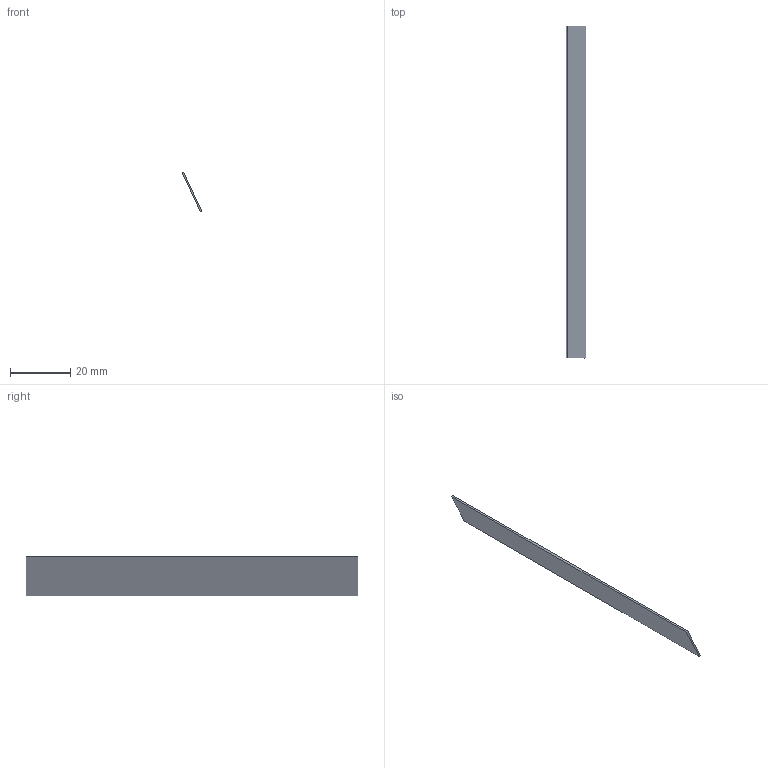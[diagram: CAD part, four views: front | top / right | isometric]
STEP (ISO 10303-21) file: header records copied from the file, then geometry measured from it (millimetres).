
FILE_DESCRIPTION(('Open CASCADE Model'),'2;1');
FILE_NAME('SOLID','2026-10-21T18:57:47',('Author'),('Open CASCADE'), 'Open CASCADE STEP processor 8.0','build123d','Unknown');
FILE_SCHEMA(('AUTOMOTIVE_DESIGN { 1 0 10303 214 1 1 1 1 }'));
Length unit declared in the file: millimetre
Products named in the file (2): SOLID
Assembly tree (1 placements, depth 2):
  SOLID
    SOLID
Bounding box: 6.59 x 109.85 x 13.21 mm (x, y, z)
Volume: 942.5 mm3; surface area: 3290.7 mm2
Topology: 1 solids, 1 shells, 6 faces, 12 edges, 8 vertices
Faces by surface type: plane 6
Entity records: 328 total; most frequent: CARTESIAN_POINT 64, DIRECTION 40, ORIENTED_EDGE 24, LINE 24, VECTOR 24, PCURVE 24, DEFINITIONAL_REPRESENTATION 24, EDGE_CURVE 12
